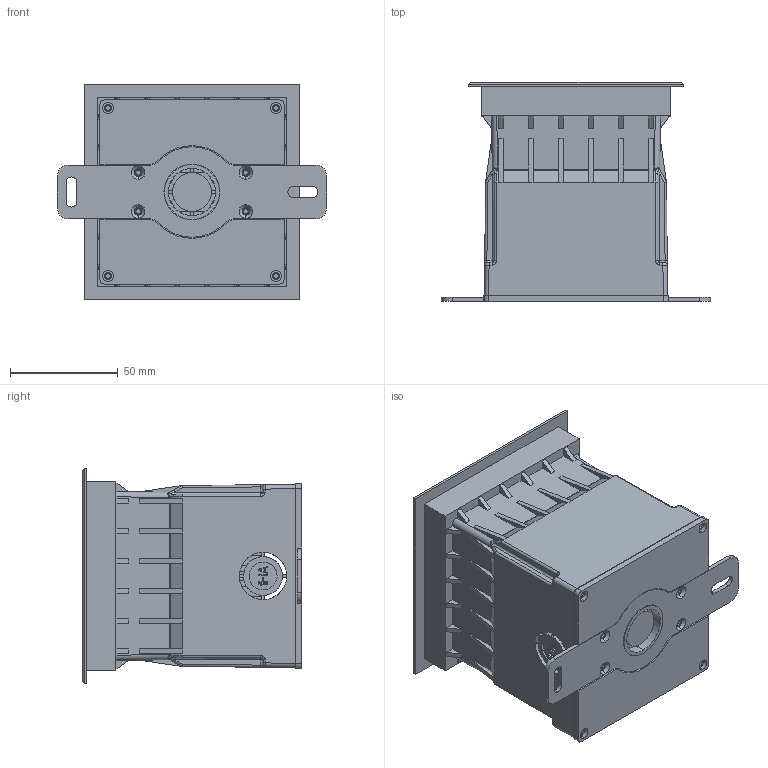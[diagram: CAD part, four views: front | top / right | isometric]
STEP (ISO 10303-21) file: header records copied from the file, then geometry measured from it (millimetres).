
FILE_DESCRIPTION (( 'STEP AP214' ), '1' );
FILE_NAME ('R2HD0126.STEP', '2017-09-15T09:23:53', ( 'Sky123.Org' ), ( 'Sky123.Org' ), 'SwSTEP 2.0', 'SolidWorks 2015', '' );
FILE_SCHEMA (( 'AUTOMOTIVE_DESIGN' ));
Length unit declared in the file: millimetre
Products named in the file (12): DONGLUOMU; CAP_6_55; 2HD產薛; 1HF醱裔; R2HD0126; 毀嫖戚R5; 2HD殑嫖欶; 1HA啎鎚肭; 1HA啎鎚肭菁裔; 4AC啎鎚肭菁え; BODY_6_51; KAPIAN_2_42
Assembly tree (12 placements, depth 2):
  R2HD0126
    1HF醱裔
    2HD產薛
    CAP_6_55
    DONGLUOMU
    KAPIAN_2_42  x2
    BODY_6_51
    4AC啎鎚肭菁え
    1HA啎鎚肭菁裔
    1HA啎鎚肭
    2HD殑嫖欶
    毀嫖戚R5
Bounding box: 125.01 x 102 x 100 mm (x, y, z)
Volume: 99833.6 mm3; surface area: 204367.4 mm2
Topology: 9 solids, 205 shells, 2388 faces, 6751 edges, 4651 vertices
Faces by surface type: plane 1478, cylinder 542, bspline 201, cone 159, torus 8
Entity records: 89426 total; most frequent: CARTESIAN_POINT 31818, ORIENTED_EDGE 11894, DIRECTION 10260, EDGE_CURVE 6676, VERTEX_POINT 4607, LINE 4432, VECTOR 4432, AXIS2_PLACEMENT_3D 2914
